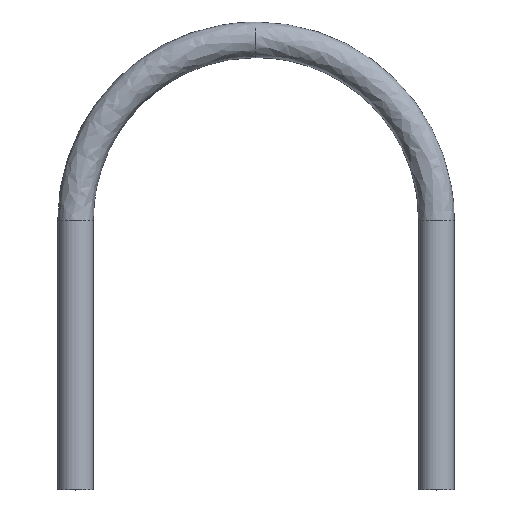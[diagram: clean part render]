
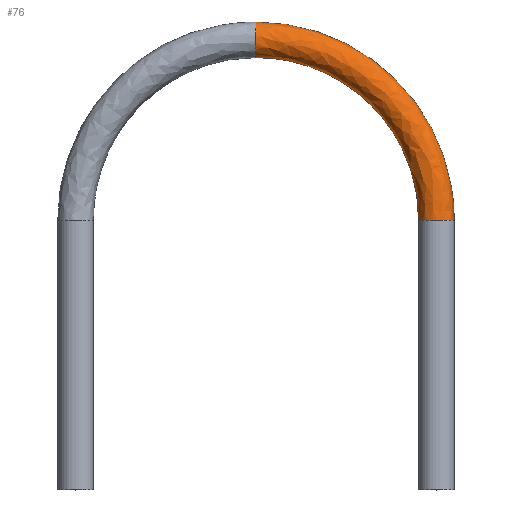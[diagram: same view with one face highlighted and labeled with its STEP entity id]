
A CAD part, top view. The second image highlights one B-rep face of the part: STEP entity #76.
In plain terms, the highlighted free-form (B-spline) face has degree [3, 3] with [11, 6] control points.
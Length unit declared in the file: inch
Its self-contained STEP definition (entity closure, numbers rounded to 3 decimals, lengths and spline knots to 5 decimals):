
#76=ADVANCED_FACE('',(#135),#136,.T.);
#135=FACE_OUTER_BOUND('',#396,.T.);
#136=B_SPLINE_SURFACE_WITH_KNOTS('',3,3,((#397,#398,#399,#400,#401,#402),(#403,#404,#405,#406,#407,#408),(#409,#410,#411,#412,#413,#414),(#415,#416,#417,#418,#419,#420),(#421,#422,#423,#424,#425,#426),(#427,#428,#429,#430,#431,#432),(#433,#434,#435,#436,#437,#438),(#439,#440,#441,#442,#443,#444),(#445,#446,#447,#448,#449,#450),(#451,#452,#453,#454,#455,#456),(#457,#458,#459,#460,#461,#462)),.UNSPECIFIED.,.T.,.F.,.F.,(4,1,1,1,1,1,1,1,4),(4,1,1,4),(-6.28319,-5.49779,-4.71239,-3.92699,-3.14159,-2.35619,-1.5708,-0.7854,0.0),(0.0,0.375,0.75,1.0),.UNSPECIFIED.);
#396=EDGE_LOOP('',(#531,#532,#533,#534));
#397=CARTESIAN_POINT('',(4.25102,-2.09022,0.));
#398=CARTESIAN_POINT('',(4.82586,-2.09026,0.));
#399=CARTESIAN_POINT('',(5.89812,-2.44086,0.));
#400=CARTESIAN_POINT('',(6.83726,-3.57197,0.));
#401=CARTESIAN_POINT('',(7.03199,-4.48799,0.));
#402=CARTESIAN_POINT('',(7.03202,-4.87122,0.));
#403=CARTESIAN_POINT('',(4.25102,-2.09022,0.06545));
#404=CARTESIAN_POINT('',(4.82586,-2.09026,0.06545));
#405=CARTESIAN_POINT('',(5.89812,-2.44086,0.06545));
#406=CARTESIAN_POINT('',(6.83726,-3.57197,0.06545));
#407=CARTESIAN_POINT('',(7.03199,-4.48799,0.06545));
#408=CARTESIAN_POINT('',(7.03202,-4.87122,0.06545));
#409=CARTESIAN_POINT('',(4.25102,-2.14439,0.19583));
#410=CARTESIAN_POINT('',(4.81488,-2.14443,0.19583));
#411=CARTESIAN_POINT('',(5.86583,-2.48811,0.19583));
#412=CARTESIAN_POINT('',(6.78693,-3.59743,0.19583));
#413=CARTESIAN_POINT('',(6.97782,-4.4953,0.19583));
#414=CARTESIAN_POINT('',(6.97785,-4.87122,0.19583));
#415=CARTESIAN_POINT('',(4.25102,-2.34021,0.27694));
#416=CARTESIAN_POINT('',(4.77519,-2.34026,0.27694));
#417=CARTESIAN_POINT('',(5.74913,-2.65891,0.27694));
#418=CARTESIAN_POINT('',(6.605,-3.68945,0.27694));
#419=CARTESIAN_POINT('',(6.782,-4.52176,0.27694));
#420=CARTESIAN_POINT('',(6.78203,-4.87122,0.27694));
#421=CARTESIAN_POINT('',(4.25102,-2.53604,0.19583));
#422=CARTESIAN_POINT('',(4.7355,-2.53608,0.19583));
#423=CARTESIAN_POINT('',(5.63242,-2.82971,0.19583));
#424=CARTESIAN_POINT('',(6.42306,-3.78147,0.19583));
#425=CARTESIAN_POINT('',(6.58617,-4.54822,0.19583));
#426=CARTESIAN_POINT('',(6.5862,-4.87122,0.19583));
#427=CARTESIAN_POINT('',(4.25102,-2.61716,0.));
#428=CARTESIAN_POINT('',(4.71907,-2.6172,0.));
#429=CARTESIAN_POINT('',(5.58408,-2.90045,0.));
#430=CARTESIAN_POINT('',(6.34769,-3.81959,0.));
#431=CARTESIAN_POINT('',(6.50506,-4.55918,0.));
#432=CARTESIAN_POINT('',(6.50508,-4.87122,0.));
#433=CARTESIAN_POINT('',(4.25102,-2.53605,-0.19583));
#434=CARTESIAN_POINT('',(4.7355,-2.53609,-0.19583));
#435=CARTESIAN_POINT('',(5.63242,-2.82971,-0.19583));
#436=CARTESIAN_POINT('',(6.42305,-3.78147,-0.19583));
#437=CARTESIAN_POINT('',(6.58617,-4.54822,-0.19583));
#438=CARTESIAN_POINT('',(6.58619,-4.87122,-0.19583));
#439=CARTESIAN_POINT('',(4.25102,-2.34022,-0.27694));
#440=CARTESIAN_POINT('',(4.77519,-2.34026,-0.27694));
#441=CARTESIAN_POINT('',(5.74913,-2.65891,-0.27694));
#442=CARTESIAN_POINT('',(6.60499,-3.68945,-0.27694));
#443=CARTESIAN_POINT('',(6.78199,-4.52176,-0.27694));
#444=CARTESIAN_POINT('',(6.78202,-4.87122,-0.27694));
#445=CARTESIAN_POINT('',(4.25102,-2.14439,-0.19583));
#446=CARTESIAN_POINT('',(4.81488,-2.14443,-0.19583));
#447=CARTESIAN_POINT('',(5.86583,-2.48811,-0.19583));
#448=CARTESIAN_POINT('',(6.78693,-3.59743,-0.19583));
#449=CARTESIAN_POINT('',(6.97782,-4.4953,-0.19583));
#450=CARTESIAN_POINT('',(6.97785,-4.87122,-0.19583));
#451=CARTESIAN_POINT('',(4.25102,-2.09022,-0.06545));
#452=CARTESIAN_POINT('',(4.82586,-2.09026,-0.06545));
#453=CARTESIAN_POINT('',(5.89812,-2.44086,-0.06545));
#454=CARTESIAN_POINT('',(6.83726,-3.57197,-0.06545));
#455=CARTESIAN_POINT('',(7.03199,-4.48799,-0.06545));
#456=CARTESIAN_POINT('',(7.03202,-4.87122,-0.06545));
#457=CARTESIAN_POINT('',(4.25102,-2.09022,0.0));
#458=CARTESIAN_POINT('',(4.82586,-2.09026,0.0));
#459=CARTESIAN_POINT('',(5.89812,-2.44086,0.0));
#460=CARTESIAN_POINT('',(6.83726,-3.57197,0.0));
#461=CARTESIAN_POINT('',(7.03199,-4.48799,0.0));
#462=CARTESIAN_POINT('',(7.03202,-4.87122,0.0));
#531=ORIENTED_EDGE('',*,*,#560,.F.);
#532=ORIENTED_EDGE('',*,*,#554,.T.);
#533=ORIENTED_EDGE('',*,*,#561,.F.);
#534=ORIENTED_EDGE('',*,*,#551,.F.);
#551=EDGE_CURVE('',#584,#586,#590,.T.);
#554=EDGE_CURVE('',#571,#566,#593,.T.);
#560=EDGE_CURVE('',#571,#584,#599,.T.);
#561=EDGE_CURVE('',#586,#566,#600,.T.);
#566=VERTEX_POINT('',#605);
#571=VERTEX_POINT('',#611);
#584=VERTEX_POINT('',#627);
#586=VERTEX_POINT('',#634);
#590=CIRCLE('',#643,0.25);
#593=CIRCLE('',#646,0.25);
#599=B_SPLINE_CURVE_WITH_KNOTS('',3,(#652,#653,#654,#655,#656,#657),.UNSPECIFIED.,.F.,.F.,(4,1,1,4),(-1.0,-0.75,-0.375,-0.0),.UNSPECIFIED.);
#600=B_SPLINE_CURVE_WITH_KNOTS('',3,(#658,#659,#660,#661,#662,#663),.UNSPECIFIED.,.F.,.F.,(4,1,1,4),(0.0,0.375,0.75,1.0),.UNSPECIFIED.);
#605=CARTESIAN_POINT('',(7.03202,-4.87122,0.0));
#611=CARTESIAN_POINT('',(6.53202,-4.87122,0.));
#627=CARTESIAN_POINT('',(4.25102,-2.59022,0.));
#634=CARTESIAN_POINT('',(4.25102,-2.09022,0.0));
#643=AXIS2_PLACEMENT_3D('',#685,#686,#687);
#646=AXIS2_PLACEMENT_3D('',#691,#692,#693);
#652=CARTESIAN_POINT('',(6.53212,-4.87122,0.));
#653=CARTESIAN_POINT('',(6.53209,-4.55553,0.));
#654=CARTESIAN_POINT('',(6.37281,-3.80688,0.));
#655=CARTESIAN_POINT('',(5.6002,-2.87687,0.));
#656=CARTESIAN_POINT('',(4.72455,-2.59016,0.));
#657=CARTESIAN_POINT('',(4.25102,-2.59012,0.));
#658=CARTESIAN_POINT('',(4.25102,-2.09022,0.0));
#659=CARTESIAN_POINT('',(4.82586,-2.09026,0.0));
#660=CARTESIAN_POINT('',(5.89812,-2.44086,0.0));
#661=CARTESIAN_POINT('',(6.83726,-3.57197,0.0));
#662=CARTESIAN_POINT('',(7.03199,-4.48799,0.0));
#663=CARTESIAN_POINT('',(7.03202,-4.87122,0.0));
#685=CARTESIAN_POINT('',(4.25102,-2.34022,0.0));
#686=DIRECTION('',(-1.0,0.0,0.0));
#687=DIRECTION('',(0.0,1.0,0.0));
#691=CARTESIAN_POINT('',(6.78202,-4.87122,0.0));
#692=DIRECTION('',(-0.0,1.0,0.0));
#693=DIRECTION('',(1.0,0.0,0.0));
